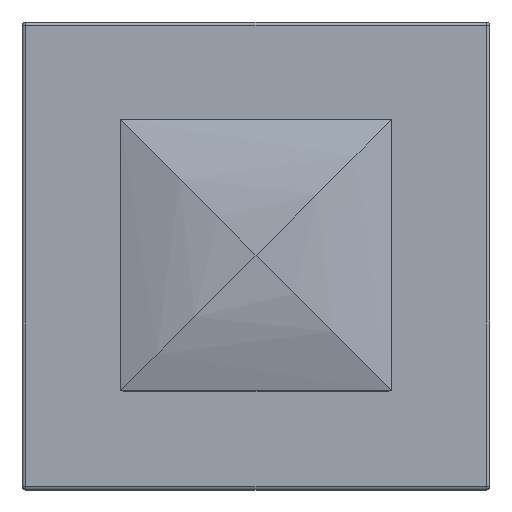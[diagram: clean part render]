
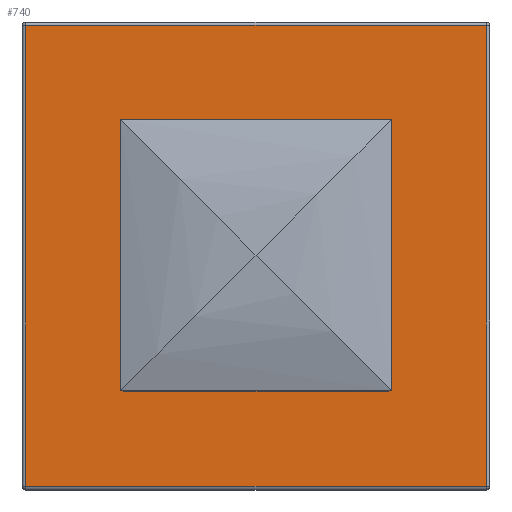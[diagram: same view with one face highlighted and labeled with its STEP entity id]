
A CAD part, top view. The second image highlights one B-rep face of the part: STEP entity #740.
In plain terms, the highlighted planar face has unit normal (0, 0, 1).
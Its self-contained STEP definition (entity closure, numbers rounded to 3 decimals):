
#27=FACE_BOUND('',#129,.T.);
#38=PLANE('',#833);
#80=FACE_OUTER_BOUND('',#128,.T.);
#128=EDGE_LOOP('',(#618,#619,#620,#621));
#129=EDGE_LOOP('',(#622,#623,#624,#625,#626,#627,#628,#629));
#165=LINE('',#1157,#233);
#169=LINE('',#1166,#237);
#171=LINE('',#1173,#239);
#174=LINE('',#1180,#242);
#181=LINE('',#1221,#249);
#185=LINE('',#1237,#253);
#187=LINE('',#1240,#255);
#189=LINE('',#1243,#257);
#233=VECTOR('',#919,10.);
#237=VECTOR('',#929,10.);
#239=VECTOR('',#937,10.);
#242=VECTOR('',#946,10.);
#249=VECTOR('',#991,10.);
#253=VECTOR('',#1009,10.);
#255=VECTOR('',#1013,10.);
#257=VECTOR('',#1017,10.);
#293=CIRCLE('',#791,0.3);
#294=CIRCLE('',#794,0.3);
#295=CIRCLE('',#797,0.3);
#296=CIRCLE('',#800,0.3);
#337=VERTEX_POINT('',#1150);
#338=VERTEX_POINT('',#1151);
#339=VERTEX_POINT('',#1156);
#340=VERTEX_POINT('',#1160);
#341=VERTEX_POINT('',#1161);
#342=VERTEX_POINT('',#1168);
#343=VERTEX_POINT('',#1172);
#344=VERTEX_POINT('',#1176);
#346=VERTEX_POINT('',#1183);
#351=VERTEX_POINT('',#1196);
#356=VERTEX_POINT('',#1209);
#361=VERTEX_POINT('',#1225);
#408=EDGE_CURVE('',#337,#338,#293,.F.);
#411=EDGE_CURVE('',#339,#338,#165,.T.);
#413=EDGE_CURVE('',#340,#341,#294,.F.);
#416=EDGE_CURVE('',#337,#341,#169,.T.);
#417=EDGE_CURVE('',#339,#342,#295,.F.);
#419=EDGE_CURVE('',#343,#342,#171,.T.);
#421=EDGE_CURVE('',#343,#344,#296,.F.);
#423=EDGE_CURVE('',#340,#344,#174,.T.);
#442=EDGE_CURVE('',#346,#356,#181,.T.);
#450=EDGE_CURVE('',#356,#361,#185,.T.);
#452=EDGE_CURVE('',#361,#351,#187,.T.);
#454=EDGE_CURVE('',#351,#346,#189,.T.);
#618=ORIENTED_EDGE('',*,*,#442,.F.);
#619=ORIENTED_EDGE('',*,*,#454,.F.);
#620=ORIENTED_EDGE('',*,*,#452,.F.);
#621=ORIENTED_EDGE('',*,*,#450,.F.);
#622=ORIENTED_EDGE('',*,*,#411,.T.);
#623=ORIENTED_EDGE('',*,*,#408,.F.);
#624=ORIENTED_EDGE('',*,*,#416,.T.);
#625=ORIENTED_EDGE('',*,*,#413,.F.);
#626=ORIENTED_EDGE('',*,*,#423,.T.);
#627=ORIENTED_EDGE('',*,*,#421,.F.);
#628=ORIENTED_EDGE('',*,*,#419,.T.);
#629=ORIENTED_EDGE('',*,*,#417,.F.);
#740=ADVANCED_FACE('',(#80,#27),#38,.T.);
#791=AXIS2_PLACEMENT_3D('',#1152,#913,#914);
#794=AXIS2_PLACEMENT_3D('',#1162,#923,#924);
#797=AXIS2_PLACEMENT_3D('',#1169,#932,#933);
#800=AXIS2_PLACEMENT_3D('',#1177,#941,#942);
#833=AXIS2_PLACEMENT_3D('',#1260,#1033,#1034);
#913=DIRECTION('center_axis',(0.,0.,-1.));
#914=DIRECTION('ref_axis',(0.707,-0.707,0.));
#919=DIRECTION('',(0.,-1.,0.));
#923=DIRECTION('center_axis',(0.,0.,-1.));
#924=DIRECTION('ref_axis',(-0.707,-0.707,0.));
#929=DIRECTION('',(-1.,0.,0.));
#932=DIRECTION('center_axis',(0.,0.,-1.));
#933=DIRECTION('ref_axis',(0.707,0.707,0.));
#937=DIRECTION('',(1.,0.,0.));
#941=DIRECTION('center_axis',(0.,0.,-1.));
#942=DIRECTION('ref_axis',(-0.707,0.707,0.));
#946=DIRECTION('',(0.,1.,0.));
#991=DIRECTION('',(0.,1.,0.));
#1009=DIRECTION('',(1.,0.,0.));
#1013=DIRECTION('',(0.,-1.,0.));
#1017=DIRECTION('',(-1.,0.,0.));
#1033=DIRECTION('center_axis',(0.,0.,1.));
#1034=DIRECTION('ref_axis',(1.,0.,0.));
#1150=CARTESIAN_POINT('',(5.55,-5.85,13.));
#1151=CARTESIAN_POINT('',(5.85,-5.55,13.));
#1152=CARTESIAN_POINT('Origin',(5.55,-5.55,13.));
#1156=CARTESIAN_POINT('',(5.85,5.55,13.));
#1157=CARTESIAN_POINT('',(5.85,-2.925,13.));
#1160=CARTESIAN_POINT('',(-5.85,-5.55,13.));
#1161=CARTESIAN_POINT('',(-5.55,-5.85,13.));
#1162=CARTESIAN_POINT('Origin',(-5.55,-5.55,13.));
#1166=CARTESIAN_POINT('',(-2.925,-5.85,13.));
#1168=CARTESIAN_POINT('',(5.55,5.85,13.));
#1169=CARTESIAN_POINT('Origin',(5.55,5.55,13.));
#1172=CARTESIAN_POINT('',(-5.55,5.85,13.));
#1173=CARTESIAN_POINT('',(2.925,5.85,13.));
#1176=CARTESIAN_POINT('',(-5.85,5.55,13.));
#1177=CARTESIAN_POINT('Origin',(-5.55,5.55,13.));
#1180=CARTESIAN_POINT('',(-5.85,2.925,13.));
#1183=CARTESIAN_POINT('',(-20.2,-20.2,13.));
#1196=CARTESIAN_POINT('',(20.2,-20.2,13.));
#1209=CARTESIAN_POINT('',(-20.2,20.2,13.));
#1221=CARTESIAN_POINT('',(-20.2,10.25,13.));
#1225=CARTESIAN_POINT('',(20.2,20.2,13.));
#1237=CARTESIAN_POINT('',(10.25,20.2,13.));
#1240=CARTESIAN_POINT('',(20.2,-10.25,13.));
#1243=CARTESIAN_POINT('',(-10.25,-20.2,13.));
#1260=CARTESIAN_POINT('Origin',(0.,0.,13.));
